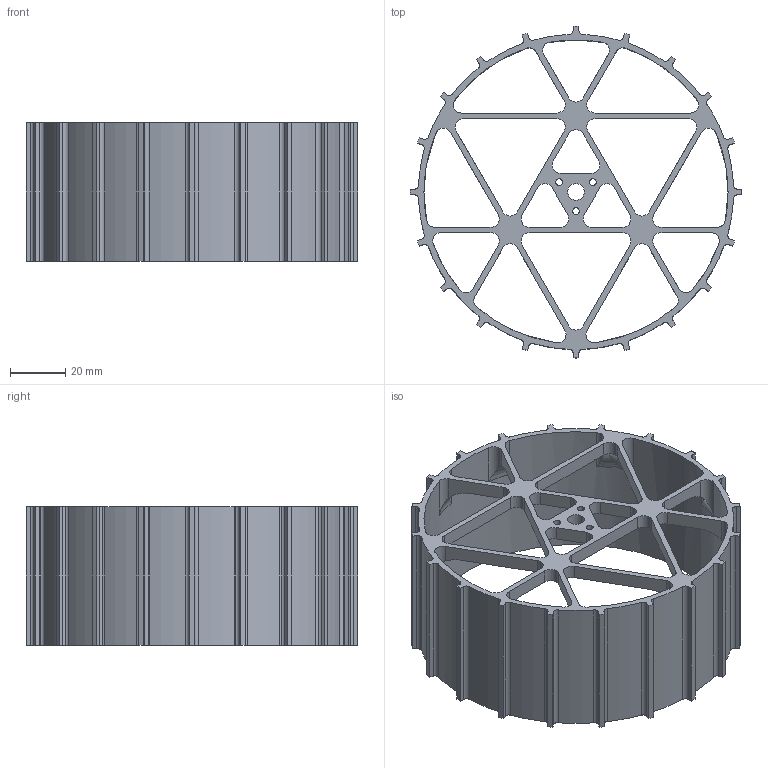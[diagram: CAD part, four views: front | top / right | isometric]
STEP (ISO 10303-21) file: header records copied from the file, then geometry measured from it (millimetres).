
FILE_DESCRIPTION (( 'STEP AP214' ), '1' );
FILE_NAME ('Rohkem_hambaid.STEP', '2025-05-19T12:09:25', ( '' ), ( '' ), 'SwSTEP 2.0', 'SolidWorks 2024', '' );
FILE_SCHEMA (( 'AUTOMOTIVE_DESIGN' ));
Length unit declared in the file: millimetre
Products named in the file (1): Rohkem_hambaid
Bounding box: 120 x 120 x 50 mm (x, y, z)
Volume: 51046.2 mm3; surface area: 50251.9 mm2
Topology: 1 solids, 1 shells, 264 faces, 807 edges, 531 vertices
Faces by surface type: cylinder 158, plane 79, torus 18, bspline 9
Entity records: 12111 total; most frequent: CARTESIAN_POINT 4661, ORIENTED_EDGE 1608, DIRECTION 1581, EDGE_CURVE 804, AXIS2_PLACEMENT_3D 590, VERTEX_POINT 531, LINE 401, VECTOR 401
